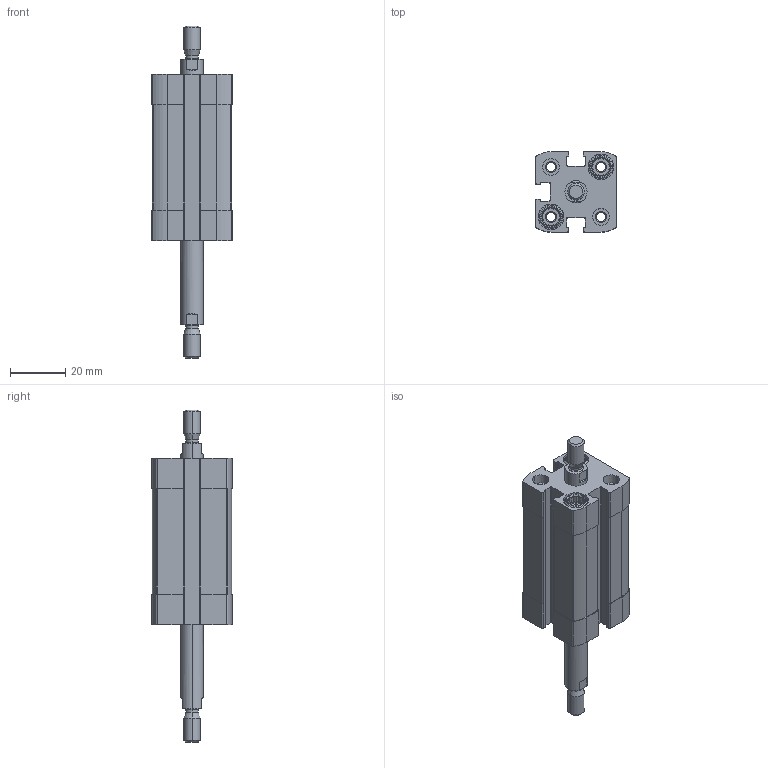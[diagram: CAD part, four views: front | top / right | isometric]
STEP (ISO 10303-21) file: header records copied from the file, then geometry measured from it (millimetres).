
FILE_DESCRIPTION (( 'STEP AP203' ), '1' );
FILE_NAME ('CCN16-25-P.STEP', '2020-06-22T18:37:29', ( '' ), ( '' ), 'SwSTEP 2.0', 'SolidWorks 2019', '' );
FILE_SCHEMA (( 'CONFIG_CONTROL_DESIGN' ));
Length unit declared in the file: millimetre
Products named in the file (1): CCN16-25-P
Bounding box: 29 x 29 x 119.7 mm (x, y, z)
Volume: 37964.4 mm3; surface area: 20224.9 mm2
Topology: 2 solids, 2 shells, 384 faces, 978 edges, 634 vertices
Faces by surface type: plane 192, cylinder 140, cone 44, torus 8
Entity records: 11803 total; most frequent: CARTESIAN_POINT 2297, DIRECTION 1990, ORIENTED_EDGE 1956, EDGE_CURVE 978, AXIS2_PLACEMENT_3D 727, VERTEX_POINT 634, LINE 536, VECTOR 536
